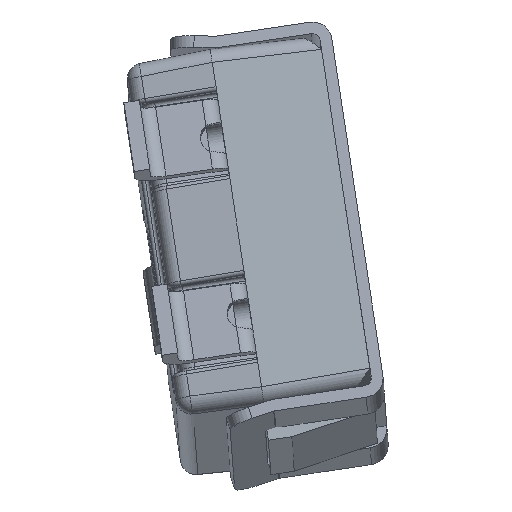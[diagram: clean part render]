
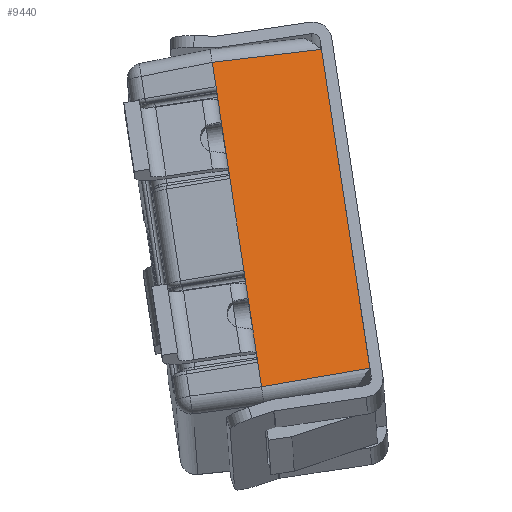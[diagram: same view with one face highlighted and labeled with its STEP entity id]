
A CAD part, left-side view. The second image highlights one B-rep face of the part: STEP entity #9440.
In plain terms, the highlighted planar face has unit normal (-0.984, -0.013, 0.175).
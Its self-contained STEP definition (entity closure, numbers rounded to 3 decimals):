
#2083=ORIENTED_EDGE('',*,*,#3726,.T.);
#2084=ORIENTED_EDGE('',*,*,#3575,.F.);
#2085=ORIENTED_EDGE('',*,*,#3609,.T.);
#2086=ORIENTED_EDGE('',*,*,#3731,.T.);
#2087=ORIENTED_EDGE('',*,*,#3607,.T.);
#2088=ORIENTED_EDGE('',*,*,#3581,.T.);
#2089=ORIENTED_EDGE('',*,*,#3733,.T.);
#2090=ORIENTED_EDGE('',*,*,#3716,.F.);
#2091=ORIENTED_EDGE('',*,*,#3734,.T.);
#2092=ORIENTED_EDGE('',*,*,#3723,.F.);
#3575=EDGE_CURVE('',#4547,#4545,#5312,.T.);
#3581=EDGE_CURVE('',#4550,#4552,#5315,.T.);
#3607=EDGE_CURVE('',#4564,#4550,#5333,.T.);
#3609=EDGE_CURVE('',#4547,#4565,#5335,.T.);
#3716=EDGE_CURVE('',#4526,#4509,#5436,.T.);
#3723=EDGE_CURVE('',#4497,#4534,#5443,.T.);
#3726=EDGE_CURVE('',#4497,#4545,#5446,.T.);
#3731=EDGE_CURVE('',#4565,#4564,#5451,.T.);
#3733=EDGE_CURVE('',#4552,#4509,#5453,.T.);
#3734=EDGE_CURVE('',#4526,#4534,#5454,.T.);
#4497=VERTEX_POINT('',#14496);
#4509=VERTEX_POINT('',#14532);
#4526=VERTEX_POINT('',#14581);
#4534=VERTEX_POINT('',#14610);
#4545=VERTEX_POINT('',#14662);
#4547=VERTEX_POINT('',#14671);
#4550=VERTEX_POINT('',#14678);
#4552=VERTEX_POINT('',#14685);
#4564=VERTEX_POINT('',#14735);
#4565=VERTEX_POINT('',#14740);
#5312=LINE('',#14670,#6127);
#5315=LINE('',#14686,#6130);
#5333=LINE('',#14737,#6148);
#5335=LINE('',#14741,#6150);
#5436=LINE('',#14950,#6251);
#5443=LINE('',#14959,#6258);
#5446=LINE('',#14966,#6261);
#5451=LINE('',#14974,#6266);
#5453=LINE('',#14980,#6268);
#5454=LINE('',#14981,#6269);
#6127=VECTOR('',#11543,1000.);
#6130=VECTOR('',#11552,1000.);
#6148=VECTOR('',#11604,1000.);
#6150=VECTOR('',#11608,1000.);
#6251=VECTOR('',#11801,1000.);
#6258=VECTOR('',#11812,1000.);
#6261=VECTOR('',#11823,1000.);
#6266=VECTOR('',#11834,1000.);
#6268=VECTOR('',#11844,1000.);
#6269=VECTOR('',#11845,1000.);
#6847=EDGE_LOOP('',(#2083,#2084,#2085,#2086,#2087,#2088,#2089,#2090,#2091,
#2092));
#7387=FACE_BOUND('',#6847,.T.);
#7770=PLANE('',#10079);
#9440=ADVANCED_FACE('',(#7387),#7770,.T.);
#10079=AXIS2_PLACEMENT_3D('',#14979,#11842,#11843);
#11543=DIRECTION('',(-0.043,0.985,-0.169));
#11552=DIRECTION('',(-0.034,0.992,-0.118));
#11604=DIRECTION('',(0.096,0.796,0.598));
#11608=DIRECTION('',(0.15,-0.584,0.798));
#11801=DIRECTION('',(0.172,0.148,0.974));
#11812=DIRECTION('',(0.172,0.148,0.974));
#11823=DIRECTION('',(-0.172,-0.148,-0.974));
#11834=DIRECTION('',(0.172,0.148,0.974));
#11842=DIRECTION('',(-0.984,-0.013,0.175));
#11843=DIRECTION('',(-0.038,0.989,-0.143));
#11844=DIRECTION('',(-0.172,-0.148,-0.974));
#11845=DIRECTION('',(-0.172,-0.148,-0.974));
#14496=CARTESIAN_POINT('',(-3.464,9.434,-2.48));
#14532=CARTESIAN_POINT('',(-2.847,9.966,1.026));
#14581=CARTESIAN_POINT('',(-3.053,9.789,-0.143));
#14610=CARTESIAN_POINT('',(-3.259,9.612,-1.312));
#14662=CARTESIAN_POINT('',(-3.519,9.387,-2.792));
#14670=CARTESIAN_POINT('',(-3.517,9.332,-2.783));
#14671=CARTESIAN_POINT('',(-3.459,8.008,-2.556));
#14678=CARTESIAN_POINT('',(-2.745,8.623,1.503));
#14685=CARTESIAN_POINT('',(-2.792,10.013,1.338));
#14686=CARTESIAN_POINT('',(-2.79,9.958,1.344));
#14735=CARTESIAN_POINT('',(-2.745,8.623,1.503));
#14737=CARTESIAN_POINT('',(-2.794,8.213,1.195));
#14740=CARTESIAN_POINT('',(-3.459,8.007,-2.556));
#14741=CARTESIAN_POINT('',(-3.382,7.707,-2.145));
#14950=CARTESIAN_POINT('',(-3.044,9.796,-0.094));
#14959=CARTESIAN_POINT('',(-3.456,9.442,-2.432));
#14966=CARTESIAN_POINT('',(-3.156,9.7,-0.727));
#14974=CARTESIAN_POINT('',(-2.704,8.658,1.733));
#14979=CARTESIAN_POINT('',(-3.156,9.7,-0.727));
#14980=CARTESIAN_POINT('',(-3.156,9.7,-0.727));
#14981=CARTESIAN_POINT('',(-3.156,9.7,-0.727));
